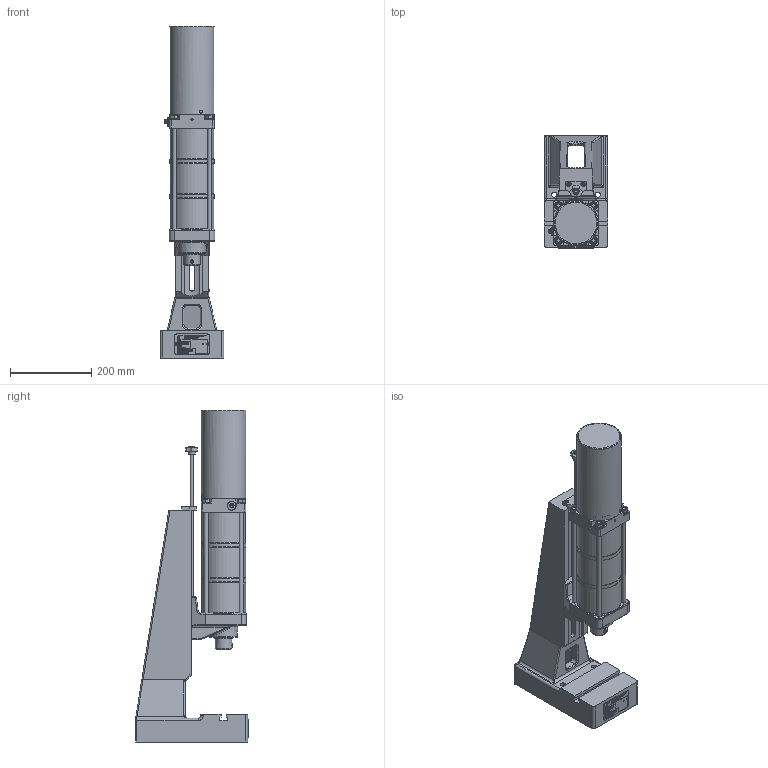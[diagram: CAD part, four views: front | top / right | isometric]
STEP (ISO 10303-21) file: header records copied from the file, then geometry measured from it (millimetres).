
FILE_DESCRIPTION(/* description */ ('BS Ständer L-DA Ausladung 80'),/* implementation_level */ '2;1');
FILE_NAME(/* name */ 'B:\02_CAD_oeffentlich\CAD_3D_oeffentlich_step\Druckluftpresse\DRP_L_1300_040_080.stp',/* time_stamp */ '2017-08-22T07:44:58+02:00',/* author */ ('Finsterle'),/* organization */ (''),/* preprocessor_version */ 'ST-DEVELOPER v16.1',/* originating_system */ 'Autodesk Inventor 2016',/* authorisation */ '');
FILE_SCHEMA (('AUTOMOTIVE_DESIGN { 1 0 10303 214 3 1 1 }'));
Products named in the file (5): ENG-000855_V; ENG-001054_V; HBF-000760; ENG-000755; HBF-001040_V
Assembly tree (5 placements, depth 2):
  HBF-001040_V
    ENG-000855_V
    ENG-001054_V
    HBF-000760
    ENG-000755  x2
Bounding box: 156 x 276.8 x 815.97 mm (x, y, z)
Volume: 5414902.8 mm3; surface area: 1093410.5 mm2
Topology: 6 solids, 6 shells, 7570 faces, 20701 edges, 13577 vertices
Faces by surface type: plane 4627, bspline 2241, cylinder 399, cone 146, torus 96, sphere 61
Full cylindrical faces by diameter (mm): 1 x1, 2 x1, 2.459 x2, 3 x9, 3.242 x2, 3.5 x2, 4 x3, 4.917 x2, 5 x4, 6.5 x2, 6.647 x1, 8 x9, 8.4 x1, 9.5 x1, 10 x6, 10.106 x1, 10.5 x8, 11 x2, 11.8 x2, 12 x6, 12.5 x3, 13 x4, 14.376 x1, 14.95 x3, 16 x1, 17.5 x2, 18 x3, 19.4 x1, 19.5 x1, 20 x7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
Entity records: 259122 total; most frequent: CARTESIAN_POINT 76867, ORIENTED_EDGE 40446, DIRECTION 27385, EDGE_CURVE 20218, LINE 14411, VECTOR 14411, VERTEX_POINT 13475, EDGE_LOOP 8425
